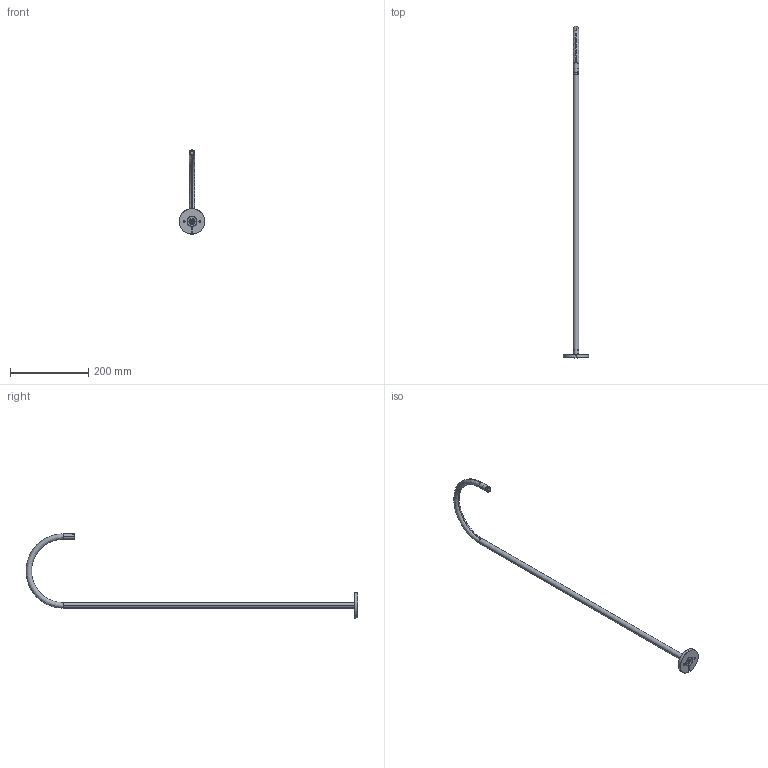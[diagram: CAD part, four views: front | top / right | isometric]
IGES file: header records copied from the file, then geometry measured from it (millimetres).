
Start section: SolidWorks IGES file using analytic representation for surfaces
Global section: file name: L:\Tecnico_PMT\R&D\PROGETTI ROADMAP 2025\TWIG - FP\studi\TWIG_Assieme\TWIG 85.IGS; native system: SolidWorks 2016; preprocessor: SolidWorks 2016; author: MarcoErbaNemo; date: 260427.141456; units: millimetre
Bounding box: 65 x 849.9 x 215.5 mm (x, y, z)
Surface area: 90401.4 mm2 (no closed solid volume)
Topology: 0 solids, 0 shells, 102 faces, 1690 edges, 1690 vertices
Faces by surface type: revolution 71, bspline 31
